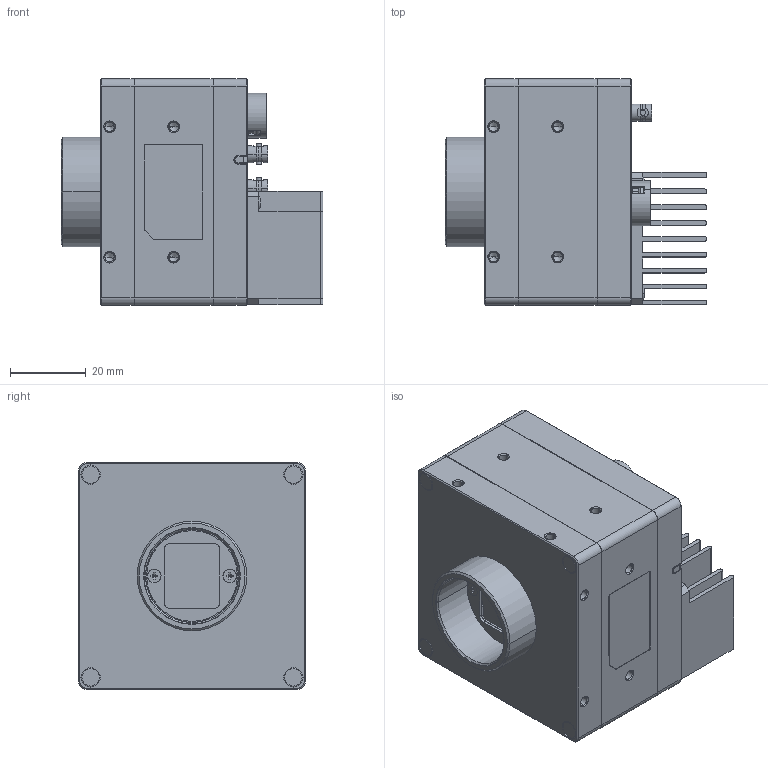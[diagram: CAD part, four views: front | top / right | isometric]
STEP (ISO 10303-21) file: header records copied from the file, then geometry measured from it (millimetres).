
FILE_DESCRIPTION((''),'2;1');
FILE_NAME('00-HIGH-PIEXL-SMALL-60X60_A1111','2023-12-19T17:14:27',('wangyijun6'),(''),'CREO PARAMETRIC BY PTC INC, 2017260','CREO PARAMETRIC BY PTC INC, 2017260','');
FILE_SCHEMA(('CONFIG_CONTROL_DESIGN'));
Products named in the file (1): 00-HIGH-PIEXL-SMALL-60X60_A1111
Bounding box: 69.33 x 60 x 60 mm (x, y, z)
Volume: 126492.2 mm3; surface area: 55655.9 mm2
Topology: 2 solids, 65 shells, 2323 faces, 6239 edges, 3970 vertices
Faces by surface type: plane 1005, cylinder 817, cone 371, torus 86, bspline 44
Entity records: 100181 total; most frequent: CARTESIAN_POINT 41835, DIRECTION 12309, ORIENTED_EDGE 12126, EDGE_CURVE 6177, AXIS2_PLACEMENT_3D 4585, VERTEX_POINT 3970, VECTOR 3139, LINE 3139
